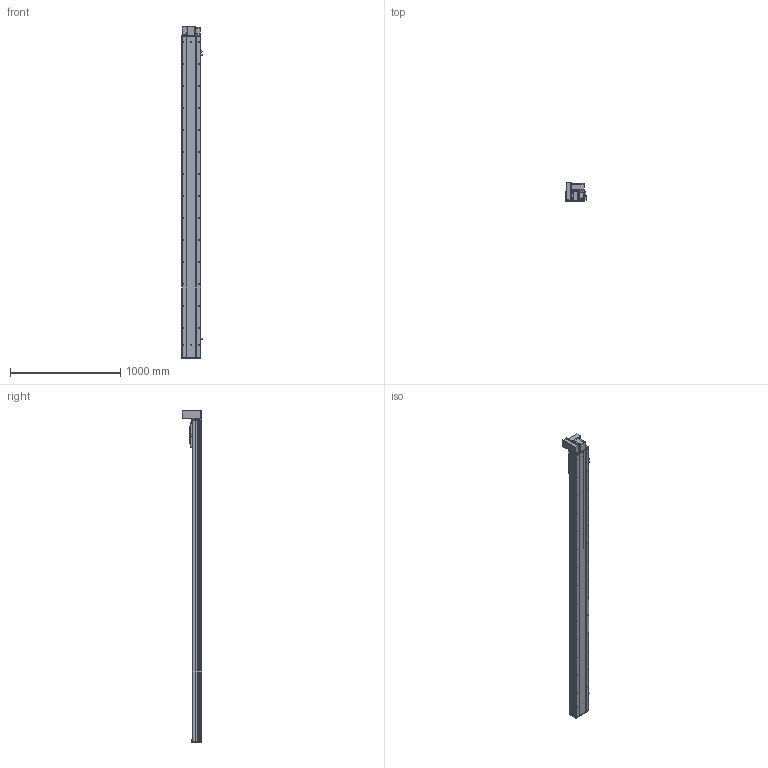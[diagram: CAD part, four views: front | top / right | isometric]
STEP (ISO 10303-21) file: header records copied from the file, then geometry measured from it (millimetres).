
FILE_DESCRIPTION (( 'STEP AP203' ), '1' );
FILE_NAME ('Y170CB-D105-S2600-UL-P400W.STEP', '2020-02-20T03:09:17', ( '微软用户' ), ( '微软中国' ), 'SwSTEP 2.0', 'SolidWorks 2017', '' );
FILE_SCHEMA (( 'CONFIG_CONTROL_DESIGN' ));
Length unit declared in the file: millimetre
Products named in the file (18): Y100-135俋离換覜ん--; 70CB-掛极-; Y170CB-陔俋离換覜結え---; --70CB --喘謫眊楊擘啣-; 70B喘謫眊----; 70CB-耜裔啣-; Y1埴倛裔; 70C--詩湍揤踡え-; 17B-耜蚾蟀諉啣----; 70CB--耜裔; 00B-俋欶BM--163; 70C-雄赽釱-奻-; B-源倛裔啣; Y170CB-D105-S2600-UL-P400W; 0C--雄赽釱俋欶-170; 0B-萇儂楊擘啣; 70CB-詩湍--; san松下电机400不带刹车----
Assembly tree (21 placements, depth 2):
  Y170CB-D105-S2600-UL-P400W
    B-源倛裔啣
    0B-萇儂楊擘啣
    san松下电机400不带刹车----
    70CB-掛极-
    --70CB --喘謫眊楊擘啣-
    70CB-耜裔啣-  x2
    70C--詩湍揤踡え-  x2
    70CB--耜裔
    70C-雄赽釱-奻-
    0C--雄赽釱俋欶-170
    70CB-詩湍--
    Y100-135俋离換覜ん--  x3
    Y170CB-陔俋离換覜結え---
    70B喘謫眊----
    Y1埴倛裔
    17B-耜蚾蟀諉啣----
    00B-俋欶BM--163
Bounding box: 183.5 x 174 x 3016 mm (x, y, z)
Volume: 12839308.8 mm3; surface area: 4637565.8 mm2
Topology: 21 solids, 21 shells, 1071 faces, 2885 edges, 1914 vertices
Faces by surface type: cylinder 585, plane 462, cone 24
Entity records: 34372 total; most frequent: CARTESIAN_POINT 6336, DIRECTION 5594, ORIENTED_EDGE 5252, EDGE_CURVE 2626, AXIS2_PLACEMENT_3D 2068, VERTEX_POINT 1744, VECTOR 1458, LINE 1458
